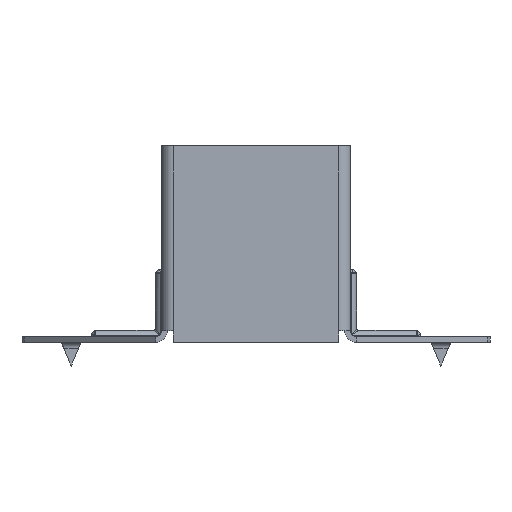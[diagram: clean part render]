
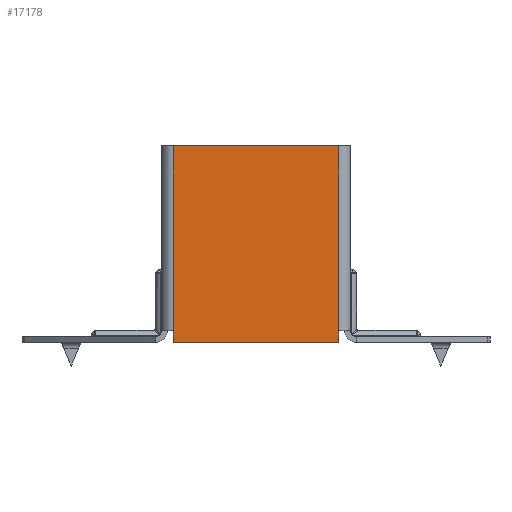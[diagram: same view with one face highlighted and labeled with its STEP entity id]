
A CAD part, front view. The second image highlights one B-rep face of the part: STEP entity #17178.
In plain terms, the highlighted planar face has unit normal (0, -1, 0).
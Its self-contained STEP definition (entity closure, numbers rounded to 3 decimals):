
#247 = DIRECTION ( 'NONE',  ( 0., 1., 0. ) ) ;
#1344 = EDGE_CURVE ( 'NONE', #15616, #8903, #10163, .T. ) ;
#1639 = FACE_OUTER_BOUND ( 'NONE', #12442, .T. ) ;
#3623 = EDGE_CURVE ( 'NONE', #13041, #14197, #12649, .T. ) ;
#3653 = CARTESIAN_POINT ( 'NONE',  ( -21., 0., -70. ) ) ;
#3889 = ORIENTED_EDGE ( 'NONE', *, *, #3623, .T. ) ;
#3950 = CARTESIAN_POINT ( 'NONE',  ( 0., 0., 0. ) ) ;
#4097 = PLANE ( 'NONE',  #8225 ) ;
#4426 = VERTEX_POINT ( 'NONE', #3653 ) ;
#5502 = VECTOR ( 'NONE', #21685, 1000. ) ;
#5588 = DIRECTION ( 'NONE',  ( 0., 0., -1. ) ) ;
#6772 = ORIENTED_EDGE ( 'NONE', *, *, #13060, .T. ) ;
#7383 = VECTOR ( 'NONE', #7649, 1000. ) ;
#7649 = DIRECTION ( 'NONE',  ( 0., 0., -1. ) ) ;
#8151 = ORIENTED_EDGE ( 'NONE', *, *, #18344, .T. ) ;
#8225 = AXIS2_PLACEMENT_3D ( 'NONE', #3950, #247, #12658 ) ;
#8454 = VECTOR ( 'NONE', #21873, 1000. ) ;
#8903 = VERTEX_POINT ( 'NONE', #19811 ) ;
#9193 = CARTESIAN_POINT ( 'NONE',  ( 21., 0., -70. ) ) ;
#9468 = CARTESIAN_POINT ( 'NONE',  ( -21., 0., -20. ) ) ;
#10163 = LINE ( 'NONE', #11065, #7383 ) ;
#10927 = LINE ( 'NONE', #14513, #16468 ) ;
#11065 = CARTESIAN_POINT ( 'NONE',  ( -21., 0., 0. ) ) ;
#11313 = CARTESIAN_POINT ( 'NONE',  ( -22.5, 0., -70. ) ) ;
#12241 = LINE ( 'NONE', #11313, #12823 ) ;
#12442 = EDGE_LOOP ( 'NONE', ( #13907, #20619, #6772, #16213, #3889, #8151 ) ) ;
#12567 = VECTOR ( 'NONE', #12974, 1000. ) ;
#12649 = LINE ( 'NONE', #12949, #8454 ) ;
#12658 = DIRECTION ( 'NONE',  ( 0., 0., 1. ) ) ;
#12823 = VECTOR ( 'NONE', #14870, 1000. ) ;
#12949 = CARTESIAN_POINT ( 'NONE',  ( 21., 0., -70. ) ) ;
#12974 = DIRECTION ( 'NONE',  ( -1., 0., 0. ) ) ;
#13041 = VERTEX_POINT ( 'NONE', #16216 ) ;
#13060 = EDGE_CURVE ( 'NONE', #8903, #4426, #10927, .T. ) ;
#13667 = EDGE_CURVE ( 'NONE', #16146, #15616, #22018, .T. ) ;
#13907 = ORIENTED_EDGE ( 'NONE', *, *, #13667, .T. ) ;
#14197 = VERTEX_POINT ( 'NONE', #15649 ) ;
#14415 = EDGE_CURVE ( 'NONE', #13041, #4426, #12241, .T. ) ;
#14513 = CARTESIAN_POINT ( 'NONE',  ( -21., 0., 0. ) ) ;
#14870 = DIRECTION ( 'NONE',  ( -1., 0., 0. ) ) ;
#15616 = VERTEX_POINT ( 'NONE', #9468 ) ;
#15649 = CARTESIAN_POINT ( 'NONE',  ( 21., 0., -67. ) ) ;
#16146 = VERTEX_POINT ( 'NONE', #22944 ) ;
#16213 = ORIENTED_EDGE ( 'NONE', *, *, #14415, .F. ) ;
#16216 = CARTESIAN_POINT ( 'NONE',  ( 21., 0., -70. ) ) ;
#16468 = VECTOR ( 'NONE', #5588, 1000. ) ;
#17178 = ADVANCED_FACE ( 'NONE', ( #1639 ), #4097, .F. ) ;
#18344 = EDGE_CURVE ( 'NONE', #14197, #16146, #20489, .T. ) ;
#19811 = CARTESIAN_POINT ( 'NONE',  ( -21., 0., -67. ) ) ;
#19836 = CARTESIAN_POINT ( 'NONE',  ( 0., 0., -20. ) ) ;
#20489 = LINE ( 'NONE', #9193, #5502 ) ;
#20619 = ORIENTED_EDGE ( 'NONE', *, *, #1344, .T. ) ;
#21685 = DIRECTION ( 'NONE',  ( 0., 0., 1. ) ) ;
#21873 = DIRECTION ( 'NONE',  ( 0., 0., 1. ) ) ;
#22018 = LINE ( 'NONE', #19836, #12567 ) ;
#22944 = CARTESIAN_POINT ( 'NONE',  ( 21., 0., -20. ) ) ;
